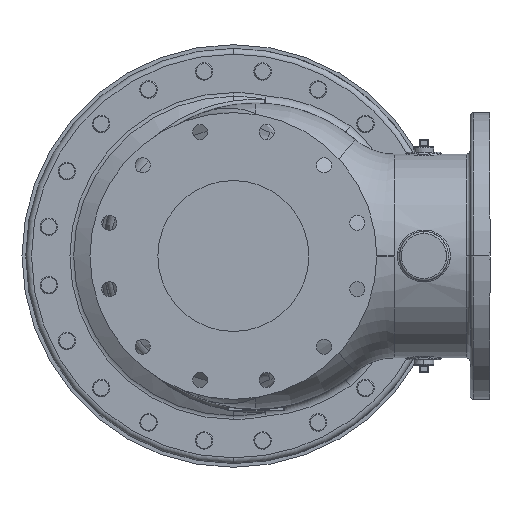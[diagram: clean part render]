
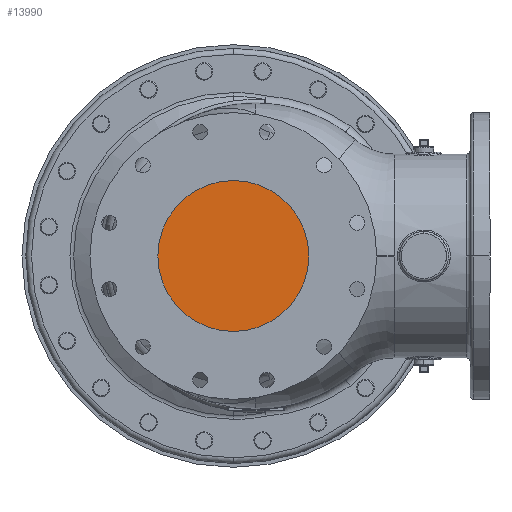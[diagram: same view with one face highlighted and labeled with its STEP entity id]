
A CAD part, front view. The second image highlights one B-rep face of the part: STEP entity #13990.
In plain terms, the highlighted planar face has unit normal (0, -1, 0).
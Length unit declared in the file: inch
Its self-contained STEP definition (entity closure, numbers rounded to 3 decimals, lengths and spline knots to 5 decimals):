
#5087 = CIRCLE ( 'NONE', #21064, 5. ) ;
#5483 = CARTESIAN_POINT ( 'NONE',  ( 0., -12., 0. ) ) ;
#6762 = DIRECTION ( 'NONE',  ( -1., 0., 0. ) ) ;
#7204 = FACE_OUTER_BOUND ( 'NONE', #23865, .T. ) ;
#7782 = ORIENTED_EDGE ( 'NONE', *, *, #16863, .F. ) ;
#9130 = DIRECTION ( 'NONE',  ( 0., 1., 0. ) ) ;
#10107 = PLANE ( 'NONE',  #23702 ) ;
#13337 = DIRECTION ( 'NONE',  ( 0., -1., 0. ) ) ;
#13990 = ADVANCED_FACE ( 'NONE', ( #7204 ), #10107, .T. ) ;
#14756 = AXIS2_PLACEMENT_3D ( 'NONE', #27335, #36353, #6762 ) ;
#16863 = EDGE_CURVE ( 'NONE', #36108, #23738, #5087, .T. ) ;
#21064 = AXIS2_PLACEMENT_3D ( 'NONE', #5483, #9130, #35452 ) ;
#21815 = DIRECTION ( 'NONE',  ( 1., 0., 0. ) ) ;
#21955 = EDGE_CURVE ( 'NONE', #23738, #36108, #28303, .T. ) ;
#23702 = AXIS2_PLACEMENT_3D ( 'NONE', #28144, #13337, #21815 ) ;
#23738 = VERTEX_POINT ( 'NONE', #37271 ) ;
#23863 = CARTESIAN_POINT ( 'NONE',  ( -5., -12., 0. ) ) ;
#23865 = EDGE_LOOP ( 'NONE', ( #7782, #30138 ) ) ;
#27335 = CARTESIAN_POINT ( 'NONE',  ( 0., -12., 0. ) ) ;
#28144 = CARTESIAN_POINT ( 'NONE',  ( 5., -12., 0. ) ) ;
#28303 = CIRCLE ( 'NONE', #14756, 5. ) ;
#30138 = ORIENTED_EDGE ( 'NONE', *, *, #21955, .F. ) ;
#35452 = DIRECTION ( 'NONE',  ( -1., 0., 0. ) ) ;
#36108 = VERTEX_POINT ( 'NONE', #23863 ) ;
#36353 = DIRECTION ( 'NONE',  ( 0., 1., 0. ) ) ;
#37271 = CARTESIAN_POINT ( 'NONE',  ( 5., -12., 0. ) ) ;
